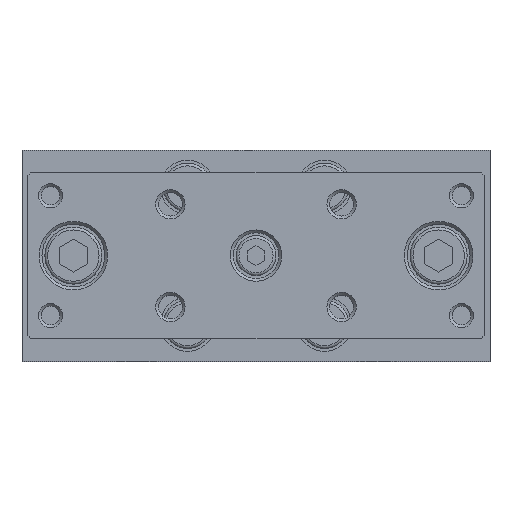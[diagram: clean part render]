
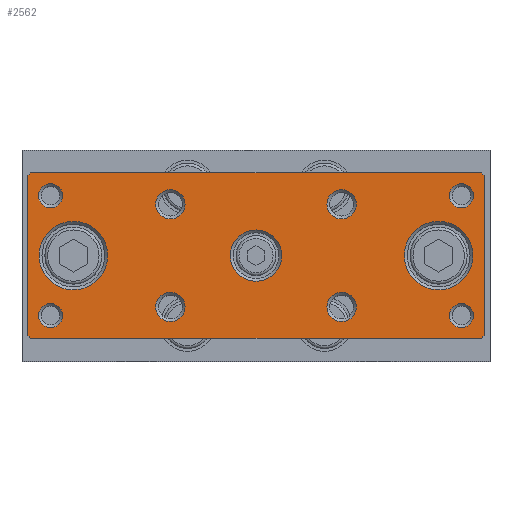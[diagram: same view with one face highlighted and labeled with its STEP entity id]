
A CAD part, top view. The second image highlights one B-rep face of the part: STEP entity #2562.
In plain terms, the highlighted planar face has unit normal (0, 0, 1).
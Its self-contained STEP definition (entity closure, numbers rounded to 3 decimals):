
#2366=CARTESIAN_POINT('',(-12.193,-7.317,129.5));
#2367=VERTEX_POINT('',#2366);
#2368=CARTESIAN_POINT('',(-14.76,-7.317,129.5));
#2369=DIRECTION('',(0.0,0.0,1.0));
#2370=DIRECTION('',(-1.0,0.0,0.0));
#2371=AXIS2_PLACEMENT_3D('',#2368,#2369,#2370);
#2372=CIRCLE('',#2371,2.567);
#2373=EDGE_CURVE('',#2367,#2367,#2372,.T.);
#2378=CARTESIAN_POINT('',(-39.76,1.683,129.5));
#2379=DIRECTION('',(0.0,0.0,1.0));
#2380=DIRECTION('',(1.0,0.0,0.0));
#2381=AXIS2_PLACEMENT_3D('',#2378,#2379,#2380);
#2382=PLANE('',#2381);
#2383=CARTESIAN_POINT('',(-39.76,15.683,129.5));
#2384=VERTEX_POINT('',#2383);
#2385=CARTESIAN_POINT('',(-39.26,16.183,129.5));
#2386=VERTEX_POINT('',#2385);
#2387=CARTESIAN_POINT('',(-39.76,15.683,129.5));
#2388=DIRECTION('',(0.707,0.707,0.0));
#2389=VECTOR('',#2388,0.707);
#2390=LINE('',#2387,#2389);
#2391=EDGE_CURVE('',#2384,#2386,#2390,.T.);
#2392=ORIENTED_EDGE('',*,*,#2391,.F.);
#2393=CARTESIAN_POINT('',(-39.76,-12.317,129.5));
#2394=VERTEX_POINT('',#2393);
#2395=CARTESIAN_POINT('',(-39.76,15.683,129.5));
#2396=DIRECTION('',(0.0,-1.0,0.0));
#2397=VECTOR('',#2396,28.);
#2398=LINE('',#2395,#2397);
#2399=EDGE_CURVE('',#2384,#2394,#2398,.T.);
#2400=ORIENTED_EDGE('',*,*,#2399,.T.);
#2401=CARTESIAN_POINT('',(-39.26,-12.817,129.5));
#2402=VERTEX_POINT('',#2401);
#2403=CARTESIAN_POINT('',(-39.26,-12.817,129.5));
#2404=DIRECTION('',(-0.707,0.707,0.0));
#2405=VECTOR('',#2404,0.707);
#2406=LINE('',#2403,#2405);
#2407=EDGE_CURVE('',#2402,#2394,#2406,.T.);
#2408=ORIENTED_EDGE('',*,*,#2407,.F.);
#2409=CARTESIAN_POINT('',(39.74,-12.817,129.5));
#2410=VERTEX_POINT('',#2409);
#2411=CARTESIAN_POINT('',(-39.26,-12.817,129.5));
#2412=DIRECTION('',(1.0,0.0,0.0));
#2413=VECTOR('',#2412,79.);
#2414=LINE('',#2411,#2413);
#2415=EDGE_CURVE('',#2402,#2410,#2414,.T.);
#2416=ORIENTED_EDGE('',*,*,#2415,.T.);
#2417=CARTESIAN_POINT('',(40.24,-12.317,129.5));
#2418=VERTEX_POINT('',#2417);
#2419=CARTESIAN_POINT('',(40.24,-12.317,129.5));
#2420=DIRECTION('',(-0.707,-0.707,0.0));
#2421=VECTOR('',#2420,0.707);
#2422=LINE('',#2419,#2421);
#2423=EDGE_CURVE('',#2418,#2410,#2422,.T.);
#2424=ORIENTED_EDGE('',*,*,#2423,.F.);
#2425=CARTESIAN_POINT('',(40.24,15.683,129.5));
#2426=VERTEX_POINT('',#2425);
#2427=CARTESIAN_POINT('',(40.24,-12.317,129.5));
#2428=DIRECTION('',(0.0,1.0,0.0));
#2429=VECTOR('',#2428,28.);
#2430=LINE('',#2427,#2429);
#2431=EDGE_CURVE('',#2418,#2426,#2430,.T.);
#2432=ORIENTED_EDGE('',*,*,#2431,.T.);
#2433=CARTESIAN_POINT('',(39.74,16.183,129.5));
#2434=VERTEX_POINT('',#2433);
#2435=CARTESIAN_POINT('',(39.74,16.183,129.5));
#2436=DIRECTION('',(0.707,-0.707,0.0));
#2437=VECTOR('',#2436,0.707);
#2438=LINE('',#2435,#2437);
#2439=EDGE_CURVE('',#2434,#2426,#2438,.T.);
#2440=ORIENTED_EDGE('',*,*,#2439,.F.);
#2441=CARTESIAN_POINT('',(39.74,16.183,129.5));
#2442=DIRECTION('',(-1.0,0.0,0.0));
#2443=VECTOR('',#2442,79.0);
#2444=LINE('',#2441,#2443);
#2445=EDGE_CURVE('',#2434,#2386,#2444,.T.);
#2446=ORIENTED_EDGE('',*,*,#2445,.T.);
#2447=EDGE_LOOP('',(#2392,#2400,#2408,#2416,#2424,#2432,#2440,#2446));
#2448=FACE_OUTER_BOUND('',#2447,.T.);
#2449=CARTESIAN_POINT('',(17.807,10.683,129.5));
#2450=VERTEX_POINT('',#2449);
#2451=CARTESIAN_POINT('',(15.24,10.683,129.5));
#2452=DIRECTION('',(0.0,0.0,1.0));
#2453=DIRECTION('',(-1.0,0.0,0.0));
#2454=AXIS2_PLACEMENT_3D('',#2451,#2452,#2453);
#2455=CIRCLE('',#2454,2.567);
#2456=EDGE_CURVE('',#2450,#2450,#2455,.T.);
#2457=ORIENTED_EDGE('',*,*,#2456,.F.);
#2458=EDGE_LOOP('',(#2457));
#2459=FACE_BOUND('',#2458,.T.);
#2460=CARTESIAN_POINT('',(-12.193,10.683,129.5));
#2461=VERTEX_POINT('',#2460);
#2462=CARTESIAN_POINT('',(-14.76,10.683,129.5));
#2463=DIRECTION('',(0.0,0.0,1.0));
#2464=DIRECTION('',(-1.0,0.0,0.0));
#2465=AXIS2_PLACEMENT_3D('',#2462,#2463,#2464);
#2466=CIRCLE('',#2465,2.567);
#2467=EDGE_CURVE('',#2461,#2461,#2466,.T.);
#2468=ORIENTED_EDGE('',*,*,#2467,.F.);
#2469=EDGE_LOOP('',(#2468));
#2470=FACE_BOUND('',#2469,.T.);
#2471=CARTESIAN_POINT('',(4.74,1.683,129.5));
#2472=VERTEX_POINT('',#2471);
#2473=CARTESIAN_POINT('',(0.24,1.683,129.5));
#2474=DIRECTION('',(0.0,0.0,1.0));
#2475=DIRECTION('',(-1.0,0.0,0.0));
#2476=AXIS2_PLACEMENT_3D('',#2473,#2474,#2475);
#2477=CIRCLE('',#2476,4.5);
#2478=EDGE_CURVE('',#2472,#2472,#2477,.T.);
#2479=ORIENTED_EDGE('',*,*,#2478,.F.);
#2480=EDGE_LOOP('',(#2479));
#2481=FACE_BOUND('',#2480,.T.);
#2482=CARTESIAN_POINT('',(-25.76,1.683,129.5));
#2483=VERTEX_POINT('',#2482);
#2484=CARTESIAN_POINT('',(-31.76,1.683,129.5));
#2485=DIRECTION('',(0.0,0.0,1.0));
#2486=DIRECTION('',(-1.0,0.0,0.0));
#2487=AXIS2_PLACEMENT_3D('',#2484,#2485,#2486);
#2488=CIRCLE('',#2487,6.);
#2489=EDGE_CURVE('',#2483,#2483,#2488,.T.);
#2490=ORIENTED_EDGE('',*,*,#2489,.F.);
#2491=EDGE_LOOP('',(#2490));
#2492=FACE_BOUND('',#2491,.T.);
#2493=CARTESIAN_POINT('',(38.24,1.683,129.5));
#2494=VERTEX_POINT('',#2493);
#2495=CARTESIAN_POINT('',(32.24,1.683,129.5));
#2496=DIRECTION('',(0.0,0.0,1.0));
#2497=DIRECTION('',(-1.0,0.0,0.0));
#2498=AXIS2_PLACEMENT_3D('',#2495,#2496,#2497);
#2499=CIRCLE('',#2498,6.);
#2500=EDGE_CURVE('',#2494,#2494,#2499,.T.);
#2501=ORIENTED_EDGE('',*,*,#2500,.F.);
#2502=EDGE_LOOP('',(#2501));
#2503=FACE_BOUND('',#2502,.T.);
#2504=CARTESIAN_POINT('',(38.361,-8.817,129.5));
#2505=VERTEX_POINT('',#2504);
#2506=CARTESIAN_POINT('',(36.24,-8.817,129.5));
#2507=DIRECTION('',(0.0,0.0,1.0));
#2508=DIRECTION('',(-1.0,0.0,0.0));
#2509=AXIS2_PLACEMENT_3D('',#2506,#2507,#2508);
#2510=CIRCLE('',#2509,2.121);
#2511=EDGE_CURVE('',#2505,#2505,#2510,.T.);
#2512=ORIENTED_EDGE('',*,*,#2511,.F.);
#2513=EDGE_LOOP('',(#2512));
#2514=FACE_BOUND('',#2513,.T.);
#2515=CARTESIAN_POINT('',(38.361,12.183,129.5));
#2516=VERTEX_POINT('',#2515);
#2517=CARTESIAN_POINT('',(36.24,12.183,129.5));
#2518=DIRECTION('',(0.0,0.0,1.0));
#2519=DIRECTION('',(-1.0,0.0,0.0));
#2520=AXIS2_PLACEMENT_3D('',#2517,#2518,#2519);
#2521=CIRCLE('',#2520,2.121);
#2522=EDGE_CURVE('',#2516,#2516,#2521,.T.);
#2523=ORIENTED_EDGE('',*,*,#2522,.F.);
#2524=EDGE_LOOP('',(#2523));
#2525=FACE_BOUND('',#2524,.T.);
#2526=CARTESIAN_POINT('',(-33.639,-8.817,129.5));
#2527=VERTEX_POINT('',#2526);
#2528=CARTESIAN_POINT('',(-35.76,-8.817,129.5));
#2529=DIRECTION('',(0.0,0.0,1.0));
#2530=DIRECTION('',(-1.0,0.0,0.0));
#2531=AXIS2_PLACEMENT_3D('',#2528,#2529,#2530);
#2532=CIRCLE('',#2531,2.121);
#2533=EDGE_CURVE('',#2527,#2527,#2532,.T.);
#2534=ORIENTED_EDGE('',*,*,#2533,.F.);
#2535=EDGE_LOOP('',(#2534));
#2536=FACE_BOUND('',#2535,.T.);
#2537=CARTESIAN_POINT('',(-33.639,12.183,129.5));
#2538=VERTEX_POINT('',#2537);
#2539=CARTESIAN_POINT('',(-35.76,12.183,129.5));
#2540=DIRECTION('',(0.0,0.0,1.0));
#2541=DIRECTION('',(-1.0,0.0,0.0));
#2542=AXIS2_PLACEMENT_3D('',#2539,#2540,#2541);
#2543=CIRCLE('',#2542,2.121);
#2544=EDGE_CURVE('',#2538,#2538,#2543,.T.);
#2545=ORIENTED_EDGE('',*,*,#2544,.F.);
#2546=EDGE_LOOP('',(#2545));
#2547=FACE_BOUND('',#2546,.T.);
#2548=CARTESIAN_POINT('',(17.807,-7.317,129.5));
#2549=VERTEX_POINT('',#2548);
#2550=CARTESIAN_POINT('',(15.24,-7.317,129.5));
#2551=DIRECTION('',(0.0,0.0,1.0));
#2552=DIRECTION('',(-1.0,0.0,0.0));
#2553=AXIS2_PLACEMENT_3D('',#2550,#2551,#2552);
#2554=CIRCLE('',#2553,2.567);
#2555=EDGE_CURVE('',#2549,#2549,#2554,.T.);
#2556=ORIENTED_EDGE('',*,*,#2555,.F.);
#2557=EDGE_LOOP('',(#2556));
#2558=FACE_BOUND('',#2557,.T.);
#2559=ORIENTED_EDGE('',*,*,#2373,.F.);
#2560=EDGE_LOOP('',(#2559));
#2561=FACE_BOUND('',#2560,.T.);
#2562=ADVANCED_FACE('',(#2448,#2459,#2470,#2481,#2492,#2503,#2514,#2525,#2536,#2547,#2558,#2561),#2382,.T.);
